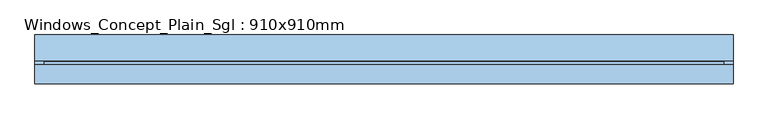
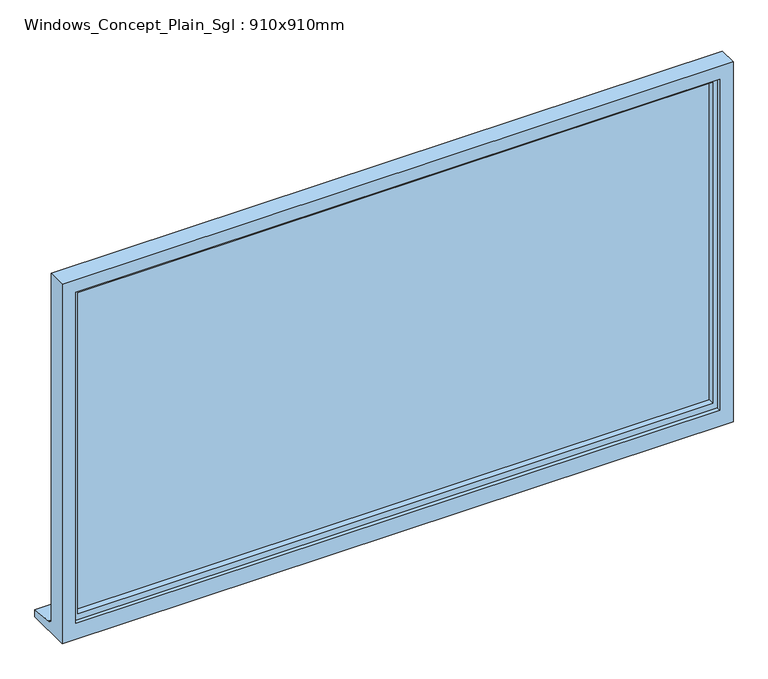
"""IFC4 building model written with IfcOpenShell, lengths in millimetres: window geometry, Windows_Concept_Plain_Sgl : 910x910mm."""

from ifc_helpers import new_model, si_unit, frame, origin, place, context, project, spatial, polyline, outline, extrude, faceted_brep, source, transform, mapped, element, save


def windows_concept_plain_sgl_910x910mm_68dbefe1(model_context):
    return source(origin(), model_context, "Body", "SolidModel", [
        faceted_brep([(-1500.0, -14.5434322, 410.0), (1500.0, -14.5434322, 410.0), (1500.0, -14.5434322, 2110.0), (-1500.0, -14.5434322, 2110.0), (-1440.0, -14.5434322, 2050.0), (1440.0, -14.5434322, 2050.0), (1440.0, -14.5434322, 485.0), (-1440.0, -14.5434322, 485.0), (-1500.0, 68.4565678, 2110.0), (-1500.0, 68.4565678, 461.0), (-1500.0, 83.4565678, 459.68767), (-1500.0, 83.4565678, 454.7449676), (-1500.0, 195.9565678, 443.8088847), (-1500.0, 195.9565678, 410.0), (1500.0, 68.4565678, 2110.0), (1500.0, 68.4565678, 461.0), (-1460.0, 68.4565678, 2070.0), (-1460.0, 68.4565678, 473.0), (1460.0, 68.4565678, 473.0), (1460.0, 68.4565678, 2070.0), (-1460.0, 3.4565678, 2070.0), (-1460.0, 3.4565678, 473.0), (1460.0, 3.4565678, 2070.0), (1460.0, 3.4565678, 473.0), (-1440.0, 3.4565678, 2050.0), (-1440.0, 3.4565678, 485.0), (1440.0, 3.4565678, 485.0), (1440.0, 3.4565678, 2050.0), (1500.0, 195.9565678, 410.0), (1500.0, 195.9565678, 443.8088847), (1500.0, 83.4565678, 454.7449676), (1500.0, 83.4565678, 459.68767)], [[[0, 1, 2, 3], [4, 5, 6, 7]], [[0, 3, 8, 9, 10, 11, 12, 13]], [[9, 8, 14, 15], [16, 17, 18, 19]], [[17, 16, 20, 21]], [[20, 22, 23, 21], [24, 25, 26, 27]], [[24, 4, 7, 25]], [[3, 2, 14, 8]], [[16, 19, 22, 20]], [[5, 4, 24, 27]], [[15, 14, 2, 1, 28, 29, 30, 31]], [[19, 18, 23, 22]], [[5, 27, 26, 6]], [[28, 1, 0, 13]], [[29, 28, 13, 12]], [[30, 29, 12, 11]], [[31, 30, 11, 10]], [[15, 31, 10, 9]], [[21, 23, 18, 17]], [[7, 6, 26, 25]]]),
        extrude(outline(polyline([(1430.0, 32.4565678), (-1430.0, 32.4565678), (-1430.0, 56.4565678), (1430.0, 56.4565678), (1430.0, 32.4565678)])), frame((0.0, 0.0, 503.0), z_axis=(0.0, 0.0, 1.0), x_axis=(1.0, 0.0, 0.0)), (0.0, 0.0, 1.0), 1537.0),
        faceted_brep([(-1460.0, 3.4565678, 2070.0), (-1460.0, 80.0035732, 2070.0), (-1460.0, 80.0035732, 473.0), (-1460.0, 3.4565678, 473.0), (-1420.0, 32.4565678, 2030.0), (-1420.0, 3.4565678, 2030.0), (-1420.0, 3.4565678, 513.0), (-1420.0, 32.4565678, 513.0), (-1430.0, 56.4565678, 2040.0), (-1430.0, 32.4565678, 2040.0), (-1430.0, 32.4565678, 503.0), (-1430.0, 56.4565678, 503.0), (-1420.0, 80.0035732, 2030.0), (-1420.0, 56.4565678, 2030.0), (-1420.0, 56.4565678, 513.0), (-1420.0, 80.0035732, 513.0), (1460.0, 80.0035732, 473.0), (1460.0, 3.4565678, 473.0), (1420.0, 3.4565678, 513.0), (1420.0, 32.4565678, 513.0), (1430.0, 32.4565678, 503.0), (1430.0, 56.4565678, 503.0), (1420.0, 56.4565678, 513.0), (1420.0, 80.0035732, 513.0), (1460.0, 80.0035732, 2070.0), (1460.0, 3.4565678, 2070.0), (1420.0, 3.4565678, 2030.0), (1420.0, 32.4565678, 2030.0), (1430.0, 32.4565678, 2040.0), (1430.0, 56.4565678, 2040.0), (1420.0, 56.4565678, 2030.0), (1420.0, 80.0035732, 2030.0)], [[[0, 1, 2, 3]], [[4, 5, 6, 7]], [[8, 9, 10, 11]], [[12, 13, 14, 15]], [[3, 2, 16, 17]], [[7, 6, 18, 19]], [[11, 10, 20, 21]], [[15, 14, 22, 23]], [[17, 16, 24, 25]], [[19, 18, 26, 27]], [[21, 20, 28, 29]], [[23, 22, 30, 31]], [[1, 24, 16, 2], [15, 23, 31, 12]], [[25, 24, 1, 0]], [[3, 17, 25, 0], [5, 26, 18, 6]], [[27, 26, 5, 4]], [[9, 28, 20, 10], [7, 19, 27, 4]], [[29, 28, 9, 8]], [[11, 21, 29, 8], [13, 30, 22, 14]], [[31, 30, 13, 12]]]),
    ])


if __name__ == "__main__":
    model = new_model("IFC4")
    model_context = context("Model", 3, world=origin())
    ifc_project = project(units=[si_unit("LENGTHUNIT", "METRE", prefix="MILLI")], contexts=[model_context])
    site = spatial("IfcSite", under=ifc_project)
    building = spatial("IfcBuilding", under=site)
    placement = place(None, origin())
    windows_concept_plain_sgl_910x910mm_shape = windows_concept_plain_sgl_910x910mm_68dbefe1(model_context)
    element("IfcWindow", 1, ObjectType="Windows_Concept_Plain_Sgl : 910x910mm", at=placement, inside=building, context=model_context, shape_type="MappedRepresentation", body=[
        mapped(windows_concept_plain_sgl_910x910mm_shape, transform((0.0, 0.0, 0.0), x_axis=(1.0, 0.0, 0.0), y_axis=(0.0, 1.0, 0.0), z_axis=(0.0, 0.0, 1.0))),
    ])
    save(model, "model.ifc")
